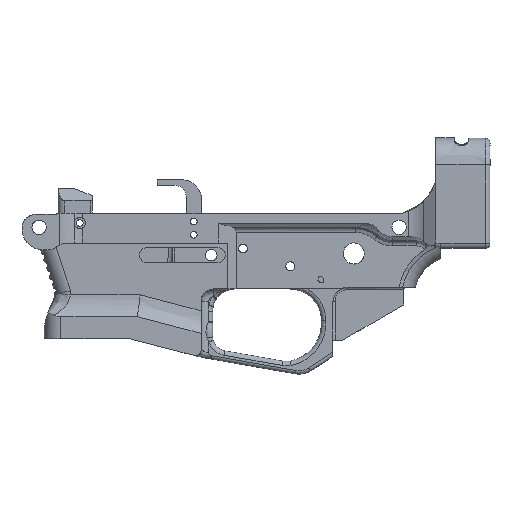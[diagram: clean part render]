
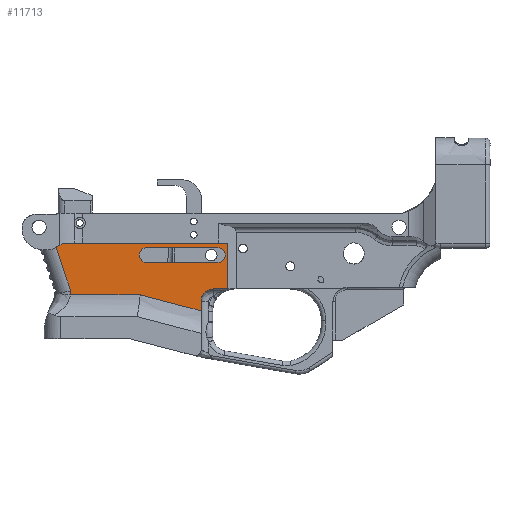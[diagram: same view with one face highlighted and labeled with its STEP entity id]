
A CAD part, left-side view. The second image highlights one B-rep face of the part: STEP entity #11713.
In plain terms, the highlighted planar face has unit normal (-1, 0, 0) as drawn and (1, 0, 0) by its records, which use the part's own axes.
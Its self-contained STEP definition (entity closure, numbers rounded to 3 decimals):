
#49=(
BOUNDED_CURVE()
B_SPLINE_CURVE(2,(#22516,#22517,#22518),.UNSPECIFIED.,.F.,.F.)
B_SPLINE_CURVE_WITH_KNOTS((3,3),(0.246,0.253),
 .UNSPECIFIED.)
CURVE()
GEOMETRIC_REPRESENTATION_ITEM()
RATIONAL_B_SPLINE_CURVE((1.,1.,1.))
REPRESENTATION_ITEM('')
);
#218=FACE_BOUND('',#1681,.T.);
#324=PLANE('',#12466);
#555=CIRCLE('',#12467,5.5);
#556=CIRCLE('',#12468,8.);
#557=CIRCLE('',#12469,8.);
#558=CIRCLE('',#12470,21.);
#559=CIRCLE('',#12471,3.315);
#560=CIRCLE('',#12472,3.315);
#1006=FACE_OUTER_BOUND('',#1680,.T.);
#1680=EDGE_LOOP('',(#8520,#8521,#8522,#8523,#8524,#8525,#8526,#8527,#8528,
#8529,#8530,#8531,#8532,#8533));
#1681=EDGE_LOOP('',(#8534,#8535,#8536,#8537));
#2474=B_SPLINE_CURVE_WITH_KNOTS('',3,(#22493,#22494,#22495,#22496),
 .UNSPECIFIED.,.F.,.F.,(4,4),(-2.704,0.126),
 .UNSPECIFIED.);
#3216=LINE('',#22481,#4020);
#3222=LINE('',#22498,#4026);
#3223=LINE('',#22502,#4027);
#3224=LINE('',#22504,#4028);
#3225=LINE('',#22506,#4029);
#3226=LINE('',#22510,#4030);
#3227=LINE('',#22514,#4031);
#3228=LINE('',#22520,#4032);
#3229=LINE('',#22523,#4033);
#3230=LINE('',#22527,#4034);
#4020=VECTOR('',#13968,10.);
#4026=VECTOR('',#13976,10.);
#4027=VECTOR('',#13979,10.);
#4028=VECTOR('',#13980,10.);
#4029=VECTOR('',#13981,10.);
#4030=VECTOR('',#13984,10.);
#4031=VECTOR('',#13987,10.);
#4032=VECTOR('',#13988,10.);
#4033=VECTOR('',#13991,14.);
#4034=VECTOR('',#13994,10.);
#4968=VERTEX_POINT('',#22479);
#4969=VERTEX_POINT('',#22480);
#4973=VERTEX_POINT('',#22491);
#4974=VERTEX_POINT('',#22492);
#4975=VERTEX_POINT('',#22497);
#4976=VERTEX_POINT('',#22499);
#4977=VERTEX_POINT('',#22501);
#4978=VERTEX_POINT('',#22503);
#4979=VERTEX_POINT('',#22505);
#4980=VERTEX_POINT('',#22507);
#4981=VERTEX_POINT('',#22509);
#4982=VERTEX_POINT('',#22511);
#4983=VERTEX_POINT('',#22513);
#4984=VERTEX_POINT('',#22515);
#4985=VERTEX_POINT('',#22519);
#4986=VERTEX_POINT('',#22521);
#4987=VERTEX_POINT('',#22524);
#4988=VERTEX_POINT('',#22526);
#6332=EDGE_CURVE('',#4968,#4969,#3216,.T.);
#6338=EDGE_CURVE('',#4973,#4974,#2474,.T.);
#6339=EDGE_CURVE('',#4973,#4975,#3222,.F.);
#6340=EDGE_CURVE('',#4975,#4976,#555,.F.);
#6341=EDGE_CURVE('',#4976,#4977,#3223,.F.);
#6342=EDGE_CURVE('',#4977,#4978,#3224,.T.);
#6343=EDGE_CURVE('',#4979,#4978,#3225,.T.);
#6344=EDGE_CURVE('',#4979,#4980,#556,.T.);
#6345=EDGE_CURVE('',#4980,#4981,#3226,.T.);
#6346=EDGE_CURVE('',#4982,#4981,#557,.F.);
#6347=EDGE_CURVE('',#4982,#4983,#3227,.T.);
#6348=EDGE_CURVE('',#4983,#4984,#49,.T.);
#6349=EDGE_CURVE('',#4985,#4984,#3228,.T.);
#6350=EDGE_CURVE('',#4986,#4985,#558,.T.);
#6351=EDGE_CURVE('',#4974,#4986,#3229,.T.);
#6352=EDGE_CURVE('',#4969,#4987,#559,.T.);
#6353=EDGE_CURVE('',#4987,#4988,#3230,.T.);
#6354=EDGE_CURVE('',#4988,#4968,#560,.T.);
#8520=ORIENTED_EDGE('',*,*,#6338,.F.);
#8521=ORIENTED_EDGE('',*,*,#6339,.T.);
#8522=ORIENTED_EDGE('',*,*,#6340,.T.);
#8523=ORIENTED_EDGE('',*,*,#6341,.T.);
#8524=ORIENTED_EDGE('',*,*,#6342,.T.);
#8525=ORIENTED_EDGE('',*,*,#6343,.F.);
#8526=ORIENTED_EDGE('',*,*,#6344,.T.);
#8527=ORIENTED_EDGE('',*,*,#6345,.T.);
#8528=ORIENTED_EDGE('',*,*,#6346,.F.);
#8529=ORIENTED_EDGE('',*,*,#6347,.T.);
#8530=ORIENTED_EDGE('',*,*,#6348,.T.);
#8531=ORIENTED_EDGE('',*,*,#6349,.F.);
#8532=ORIENTED_EDGE('',*,*,#6350,.F.);
#8533=ORIENTED_EDGE('',*,*,#6351,.F.);
#8534=ORIENTED_EDGE('',*,*,#6332,.T.);
#8535=ORIENTED_EDGE('',*,*,#6352,.T.);
#8536=ORIENTED_EDGE('',*,*,#6353,.T.);
#8537=ORIENTED_EDGE('',*,*,#6354,.T.);
#11713=ADVANCED_FACE('',(#1006,#218),#324,.F.);
#12466=AXIS2_PLACEMENT_3D('',#22490,#13974,#13975);
#12467=AXIS2_PLACEMENT_3D('',#22500,#13977,#13978);
#12468=AXIS2_PLACEMENT_3D('',#22508,#13982,#13983);
#12469=AXIS2_PLACEMENT_3D('',#22512,#13985,#13986);
#12470=AXIS2_PLACEMENT_3D('',#22522,#13989,#13990);
#12471=AXIS2_PLACEMENT_3D('',#22525,#13992,#13993);
#12472=AXIS2_PLACEMENT_3D('',#22528,#13995,#13996);
#13968=DIRECTION('',(0.,-1.,0.));
#13974=DIRECTION('center_axis',(-1.,0.,0.));
#13975=DIRECTION('ref_axis',(0.,1.,0.));
#13976=DIRECTION('',(0.,0.,-1.));
#13977=DIRECTION('center_axis',(1.,0.,0.));
#13978=DIRECTION('ref_axis',(0.,0.,1.));
#13979=DIRECTION('',(0.,-1.,0.));
#13980=DIRECTION('',(0.,0.,1.));
#13981=DIRECTION('',(0.,1.,0.));
#13982=DIRECTION('center_axis',(1.,0.,0.));
#13983=DIRECTION('ref_axis',(0.,-0.995,-0.105));
#13984=DIRECTION('',(0.,-0.828,-0.56));
#13985=DIRECTION('center_axis',(-1.,0.,0.));
#13986=DIRECTION('ref_axis',(0.,0.995,0.105));
#13987=DIRECTION('',(0.,0.908,-0.418));
#13988=DIRECTION('',(0.,-0.316,0.949));
#13989=DIRECTION('center_axis',(1.,0.,0.));
#13990=DIRECTION('ref_axis',(0.,0.991,-0.136));
#13991=DIRECTION('',(0.,-1.,0.));
#13992=DIRECTION('center_axis',(-1.,0.,0.));
#13993=DIRECTION('ref_axis',(0.,0.,
1.));
#13994=DIRECTION('',(0.,1.,0.));
#13995=DIRECTION('center_axis',(-1.,0.,0.));
#13996=DIRECTION('ref_axis',(0.,0.,-1.));
#22479=CARTESIAN_POINT('',(15.24,-80.112,-61.764));
#22480=CARTESIAN_POINT('',(15.24,-112.091,-61.764));
#22481=CARTESIAN_POINT('',(15.24,-102.398,-61.764));
#22490=CARTESIAN_POINT('Origin',(15.24,-92.706,-51.754));
#22491=CARTESIAN_POINT('',(15.24,-87.601,-83.508));
#22492=CARTESIAN_POINT('',(15.24,-114.977,-76.351));
#22493=CARTESIAN_POINT('Ctrl Pts',(15.24,-87.601,-83.508));
#22494=CARTESIAN_POINT('Ctrl Pts',(15.24,-96.727,-81.123));
#22495=CARTESIAN_POINT('Ctrl Pts',(15.24,-105.852,-78.737));
#22496=CARTESIAN_POINT('Ctrl Pts',(15.24,-114.977,-76.351));
#22497=CARTESIAN_POINT('',(15.24,-87.601,-79.152));
#22498=CARTESIAN_POINT('',(15.24,-87.601,-75.789));
#22499=CARTESIAN_POINT('',(15.24,-82.101,-73.652));
#22500=CARTESIAN_POINT('Origin',(15.24,-82.101,-79.152));
#22501=CARTESIAN_POINT('',(15.24,-75.637,-73.652));
#22502=CARTESIAN_POINT('',(15.24,-103.734,-73.652));
#22503=CARTESIAN_POINT('',(15.24,-75.638,-53.055));
#22504=CARTESIAN_POINT('',(15.24,-75.639,-26.933));
#22505=CARTESIAN_POINT('',(15.24,-147.654,-53.055));
#22506=CARTESIAN_POINT('',(15.24,-132.742,-53.055));
#22507=CARTESIAN_POINT('',(15.24,-152.138,-54.429));
#22508=CARTESIAN_POINT('Origin',(15.24,-147.654,-61.055));
#22509=CARTESIAN_POINT('',(15.24,-152.508,-54.68));
#22510=CARTESIAN_POINT('',(15.24,-132.342,-41.032));
#22511=CARTESIAN_POINT('',(15.24,-152.841,-54.893));
#22512=CARTESIAN_POINT('Origin',(15.24,-156.992,-48.055));
#22513=CARTESIAN_POINT('',(15.24,-152.83,-54.898));
#22514=CARTESIAN_POINT('',(15.24,-128.628,-66.04));
#22515=CARTESIAN_POINT('',(15.24,-152.807,-54.965));
#22516=CARTESIAN_POINT('Ctrl Pts',(15.24,-152.83,-54.898));
#22517=CARTESIAN_POINT('Ctrl Pts',(15.24,-152.819,-54.932));
#22518=CARTESIAN_POINT('Ctrl Pts',(15.24,-152.807,-54.965));
#22519=CARTESIAN_POINT('',(15.24,-146.241,-74.665));
#22520=CARTESIAN_POINT('',(15.24,-148.139,-68.971));
#22521=CARTESIAN_POINT('',(15.24,-146.357,-76.351));
#22522=CARTESIAN_POINT('Origin',(15.24,-167.232,-74.068));
#22523=CARTESIAN_POINT('',(15.24,-141.61,-76.351));
#22524=CARTESIAN_POINT('',(15.24,-112.091,-55.134));
#22525=CARTESIAN_POINT('Origin',(15.24,-112.091,-58.449));
#22526=CARTESIAN_POINT('',(15.24,-80.112,-55.134));
#22527=CARTESIAN_POINT('',(15.24,-86.409,-55.134));
#22528=CARTESIAN_POINT('Origin',(15.24,-80.112,-58.449));
